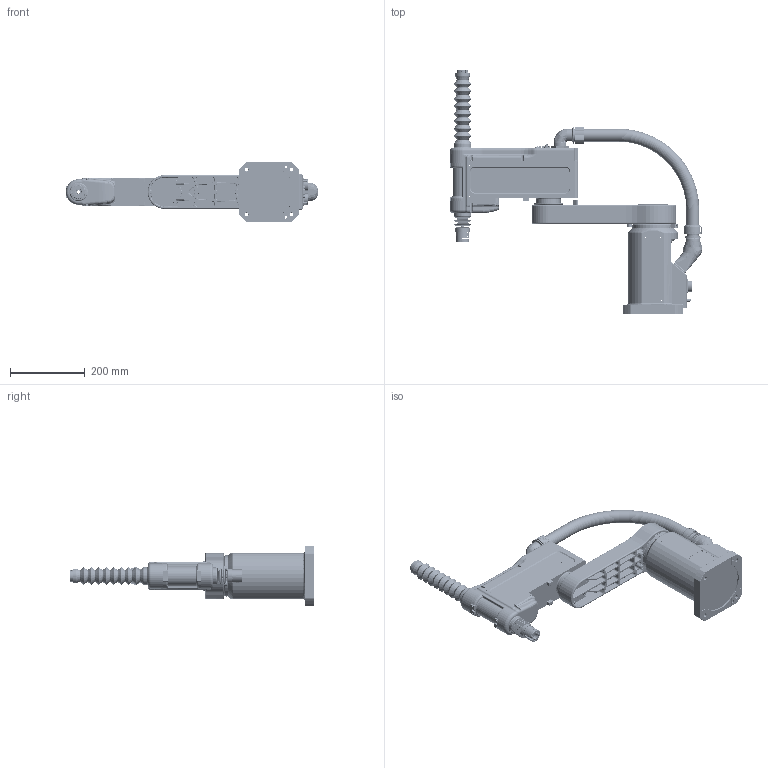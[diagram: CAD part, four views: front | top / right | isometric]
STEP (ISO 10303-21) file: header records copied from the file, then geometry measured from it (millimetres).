
FILE_DESCRIPTION (( 'STEP AP214' ), '1' );
FILE_NAME ('R4-0405F 3D耀倰.STEP', '2023-06-08T07:53:54', ( 'iCura' ), ( 'ICOS' ), 'SwSTEP 2.0', 'SolidWorks 2018', '' );
FILE_SCHEMA (( 'AUTOMOTIVE_DESIGN' ));
Length unit declared in the file: millimetre
Products named in the file (7): 软管接头_1; R4-0405-2-00 _S400; R4-0405F 3D耀倰; R4-0404F-4-00_300; 疏恇奪R4-0405; R4-0404-3-00 J3粣 ; R4-0404-1-00
Assembly tree (6 placements, depth 2):
  R4-0405F 3D耀倰
    R4-0404-1-00
    R4-0405-2-00 _S400
    R4-0404-3-00 J3粣 
    软管接头_1
    疏恇奪R4-0405
    R4-0404F-4-00_300
Bounding box: 675.65 x 653.5 x 160 mm (x, y, z)
Volume: 177582.8 mm3; surface area: 990697.9 mm2
Topology: 2 solids, 375 shells, 2890 faces, 10025 edges, 7259 vertices
Faces by surface type: cylinder 1142, plane 877, cone 342, bspline 259, torus 240, sphere 30
Full cylindrical faces by diameter (mm): 1 x18, 2.5 x32, 2.6 x1, 3.2 x8, 3.242 x2, 3.3 x26, 3.4 x27, 3.5 x30, 4 x18, 4.2 x6, 4.5 x43, 5 x4, 5.5 x6, 6 x7, 6.5 x11, 7 x10, 8 x10, 9 x9, 10 x1, 13 x2, 14 x1, 16 x1, 16.5 x1, 26 x1, 28.2 x2, 29 x2, 30 x4, 30.2 x1, 32 x3, 33 x2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
Entity records: 164544 total; most frequent: CARTESIAN_POINT 56021, DIRECTION 17036, ORIENTED_EDGE 14156, EDGE_CURVE 9071, VERTEX_POINT 7055, AXIS2_PLACEMENT_3D 6881, CIRCLE 4240, EDGE_LOOP 4166
